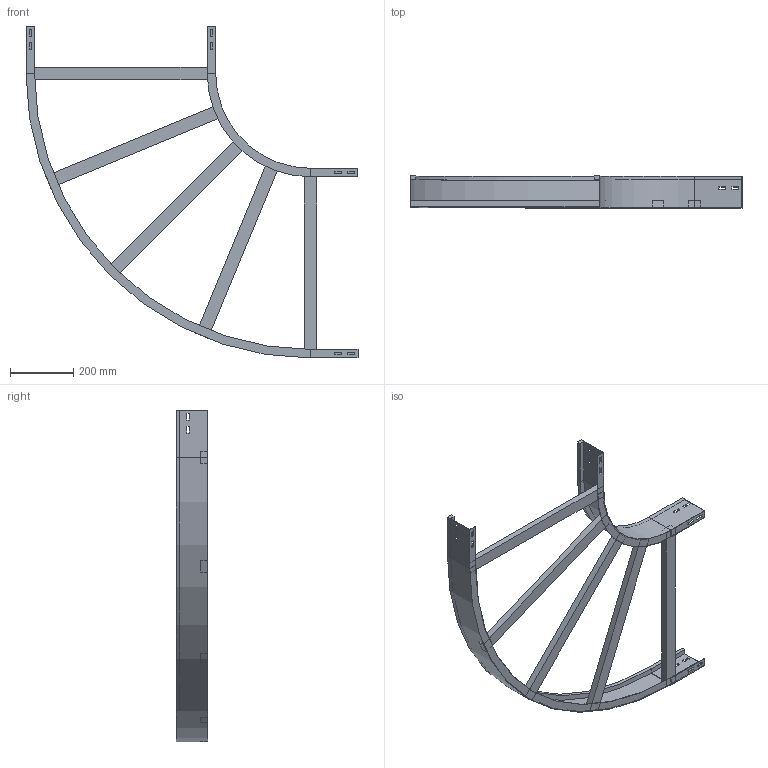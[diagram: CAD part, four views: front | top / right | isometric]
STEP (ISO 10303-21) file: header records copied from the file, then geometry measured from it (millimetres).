
FILE_DESCRIPTION (( 'STEP AP214' ), '1' );
FILE_NAME ('A2_10B3D600.step', '2025-02-21T15:23:03', ( '' ), ( '' ), 'SwSTEP 2.0', 'SolidWorks 2023', '' );
FILE_SCHEMA (( 'AUTOMOTIVE_DESIGN' ));
Length unit declared in the file: millimetre
Products named in the file (4): A2_10B3D600; TRAVERSINO_600; A2_LONGH.ESTERNO 90°_H100_R300+600; A2_LONGH.INTERNO 90°_H100_R300
Assembly tree (7 placements, depth 2):
  A2_10B3D600
    A2_LONGH.INTERNO 90°_H100_R300
    A2_LONGH.ESTERNO 90°_H100_R300+600
    TRAVERSINO_600  x5
Bounding box: 1050 x 100 x 1050 mm (x, y, z)
Volume: 3507222.4 mm3; surface area: 1078073.3 mm2
Topology: 7 solids, 7 shells, 146 faces, 364 edges, 232 vertices
Faces by surface type: plane 138, cylinder 8
Entity records: 3837 total; most frequent: CARTESIAN_POINT 648, ORIENTED_EDGE 632, DIRECTION 596, EDGE_CURVE 316, VECTOR 300, LINE 300, VERTEX_POINT 200, EDGE_LOOP 154
